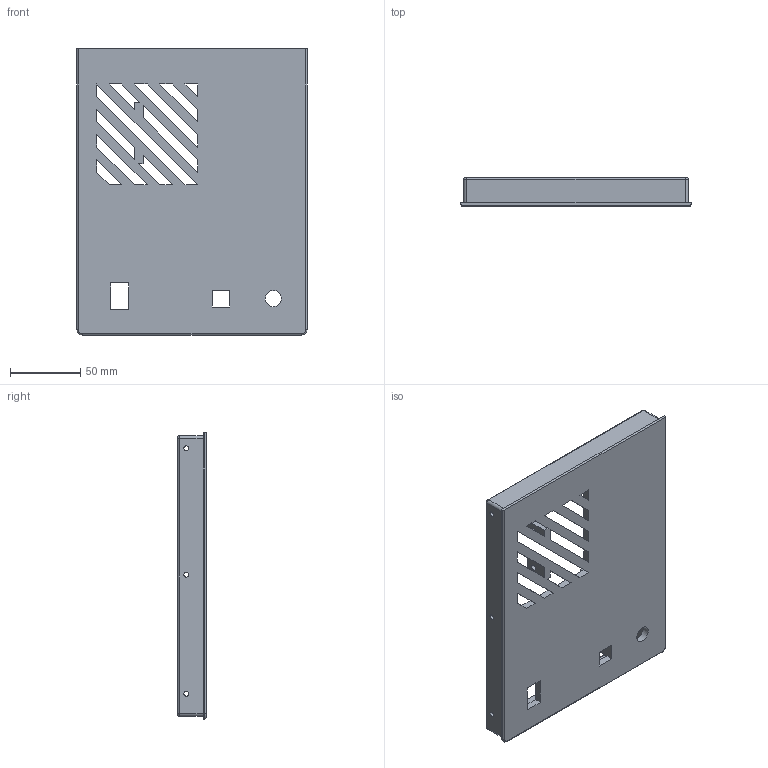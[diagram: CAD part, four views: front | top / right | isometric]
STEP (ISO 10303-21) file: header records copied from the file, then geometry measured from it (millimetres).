
FILE_DESCRIPTION(/* description */ (''),/* implementation_level */ '2;1');
FILE_NAME(/* name */ 'V:\Flow\Inventor\Kontinuierliche Spritzenpumpe\Platte hinten.stp',/* time_stamp */ '2019-12-20T10:18:35+01:00',/* author */ ('JN'),/* organization */ (''),/* preprocessor_version */ 'ST-DEVELOPER v17',/* originating_system */ 'Autodesk Inventor 2018',/* authorisation */ '');
FILE_SCHEMA (('AUTOMOTIVE_DESIGN { 1 0 10303 214 3 1 1 }'));
Length unit declared in the file: millimetre
Products named in the file (1): Platte hinten
Bounding box: 164 x 20 x 204 mm (x, y, z)
Volume: 247445.2 mm3; surface area: 93894.6 mm2
Topology: 1 solids, 1 shells, 176 faces, 469 edges, 307 vertices
Faces by surface type: plane 117, cylinder 45, cone 6, torus 4, bspline 4
Full cylindrical faces by diameter (mm): 3 x4, 3.5 x13, 4 x2, 5.5 x2, 6.2 x2, 7 x2, 11.6 x1
Entity records: 5615 total; most frequent: CARTESIAN_POINT 985, ORIENTED_EDGE 938, DIRECTION 926, EDGE_CURVE 469, LINE 358, VECTOR 358, VERTEX_POINT 307, AXIS2_PLACEMENT_3D 284
